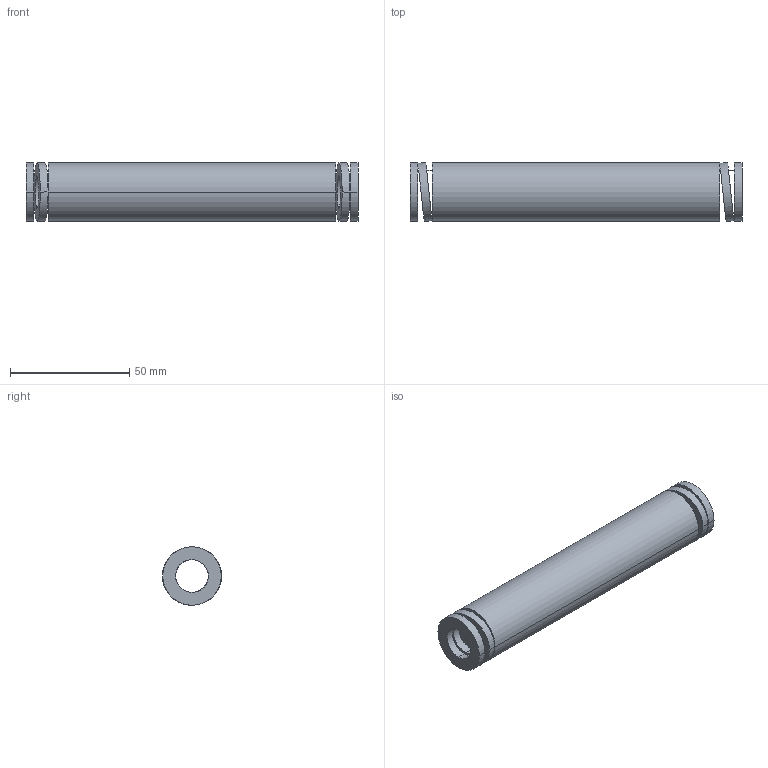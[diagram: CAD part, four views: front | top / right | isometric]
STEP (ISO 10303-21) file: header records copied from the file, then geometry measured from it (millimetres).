
FILE_DESCRIPTION(('CATIA V5 STEP Exchange'),'2;1');
FILE_NAME('C:\Users\Utente\Desktop\IO LAVORO\3D X SITO CF\X SITO\3D files 392B\392-B25-139.stp','2021-08-13T07:44:00+00:00',('none'),('none'),'CATIA Version 5 Release 20 GA (IN-10)','CATIA V5 STEP AP203','none');
FILE_SCHEMA(('CONFIG_CONTROL_DESIGN'));
Length unit declared in the file: millimetre
Products named in the file (1): 392-B25-139
Bounding box: 139 x 24.71 x 24.5 mm (x, y, z)
Volume: 43272.4 mm3; surface area: 19270.4 mm2
Topology: 1 solids, 1 shells, 38 faces, 92 edges, 64 vertices
Faces by surface type: cylinder 28, plane 10
Entity records: 1590 total; most frequent: CARTESIAN_POINT 705, ORIENTED_EDGE 184, DIRECTION 127, EDGE_CURVE 92, VERTEX_POINT 64, AXIS2_PLACEMENT_3D 62, EDGE_LOOP 56, B_SPLINE_CURVE_WITH_KNOTS 41
